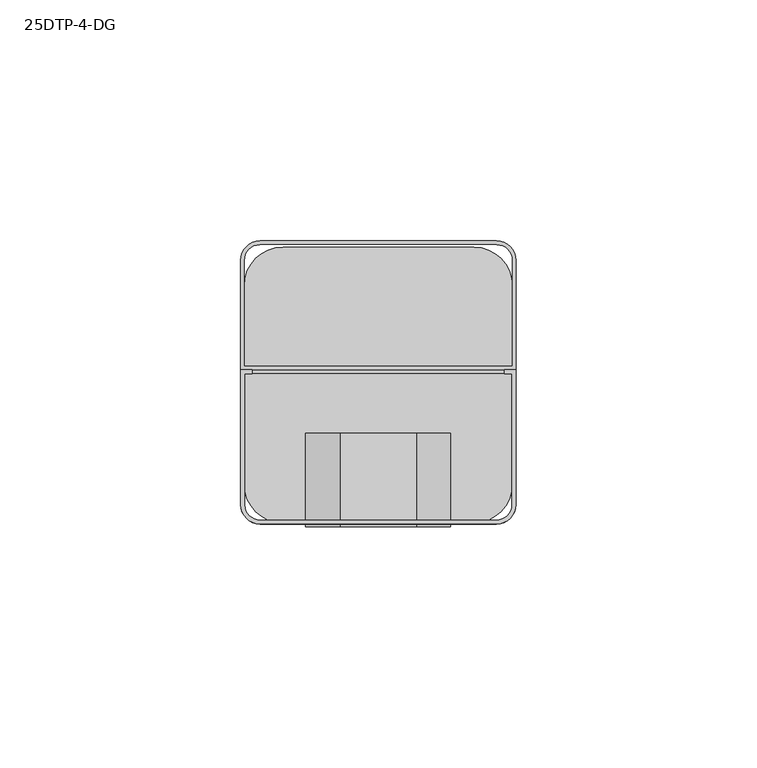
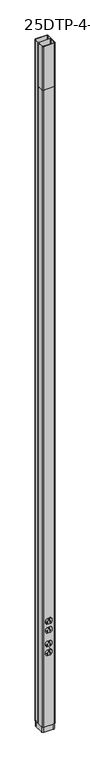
"""IFC4 building model written with IfcOpenShell, lengths in millimetres: proxy geometry, Vertical_Drop_Poles-Wiremold-Steel_Tele-Power_Pole : 25DTP-4-DG."""

from ifc_helpers import new_model, si_unit, point, frame, frame_2d, origin, origin_with_axes, place, context, project, spatial, polyline, circle_curve, trimmed, segment, composite_curve, outline, extrude, source, transform, mapped, element, save


def proxy_25dtp_4_dg_e121ea05(model_context):
    return source(origin(), model_context, "Body", "SweptSolid", [
        extrude(outline(composite_curve([segment(polyline([(28.575, 31.25), (28.575, 3.25)]), True, "CONTINUOUS"), segment(trimmed(circle_curve(frame_2d((24.575, 3.25)), 4.0), [point((28.575, 3.25))], [point((24.575, -0.75))], False, "CARTESIAN"), True, "CONTINUOUS"), segment(polyline([(24.575, -0.75), (-24.575, -0.75)]), True, "CONTINUOUS"), segment(trimmed(circle_curve(frame_2d((-24.575, 3.25)), 4.0), [point((-24.575, -0.75))], [point((-28.575, 3.25))], False, "CARTESIAN"), True, "CONTINUOUS"), segment(polyline([(-28.575, 3.25), (-28.575, 31.25), (-26.1875, 31.25), (-26.1875, 30.45), (-27.775, 30.45), (-27.775, 3.25)]), True, "CONTINUOUS"), segment(trimmed(circle_curve(frame_2d((-24.575, 3.25)), 3.2), [point((-27.775, 3.25))], [point((-24.575, 0.05))], True, "CARTESIAN"), True, "CONTINUOUS"), segment(polyline([(-24.575, 0.05), (24.575, 0.05)]), True, "CONTINUOUS"), segment(trimmed(circle_curve(frame_2d((24.575, 3.25)), 3.2), [point((24.575, 0.05))], [point((27.775, 3.25))], True, "CARTESIAN"), True, "CONTINUOUS"), segment(polyline([(27.775, 3.25), (27.775, 30.45), (26.1875, 30.45), (26.1875, 31.25), (28.575, 31.25)]), True, "CONTINUOUS")], self_intersect=False)), frame((0.0, 0.0, 2971.8), z_axis=(0.0, 0.0, 1.0), x_axis=(1.0, 0.0, 0.0)), (0.0, 0.0, 1.0), 203.2),
        extrude(outline(composite_curve([segment(trimmed(circle_curve(frame_2d((488.7029331, -1.1591271)), 13.933707), [point((500.85, -7.9853234))], [point((488.7029331, -15.092834))], False, "CARTESIAN"), True, "CONTINUOUS"), segment(polyline([(488.7029331, -15.092834), (486.7854081, -15.092834)]), True, "CONTINUOUS"), segment(trimmed(circle_curve(frame_2d((486.7854081, -0.9909304)), 14.1019036), [point((486.7854081, -15.092834))], [point((474.85, -8.5015708))], False, "CARTESIAN"), True, "CONTINUOUS"), segment(polyline([(474.85, -8.5015708), (474.85, 8.5041234)]), True, "CONTINUOUS"), segment(trimmed(circle_curve(frame_2d((486.6576313, 0.982166)), 14.0), [point((474.85, 8.5041234))], [point((486.6576313, 14.982166))], False, "CARTESIAN"), True, "CONTINUOUS"), segment(polyline([(486.6576313, 14.982166), (488.7451343, 14.982166)]), True, "CONTINUOUS"), segment(trimmed(circle_curve(frame_2d((488.7451343, 0.9958893)), 13.9862766), [point((488.7451343, 14.982166))], [point((500.85, 8.0021838))], False, "CARTESIAN"), True, "CONTINUOUS"), segment(polyline([(500.85, 8.0021838), (500.85, -7.9853234)]), True, "CONTINUOUS")], self_intersect=False), holes=[polyline([(486.9892021, -5.530934), (479.0517021, -5.530934), (479.0517021, -7.1202895), (486.9892021, -7.1202895), (486.9892021, -5.530934)]), polyline([(479.8454521, 5.29348), (486.1954521, 5.29348), (486.1954521, 6.8797105), (479.8454521, 6.8797105), (479.8454521, 5.29348)]), composite_curve([segment(polyline([(497.4329521, 2.240599), (494.2579521, 2.240599)]), True, "CONTINUOUS"), segment(trimmed(circle_curve(frame_2d((494.2579521, -0.140651)), 2.38125), [point((494.2579521, 2.240599))], [point((494.2579521, -2.521901))], True, "CARTESIAN"), True, "CONTINUOUS"), segment(polyline([(494.2579521, -2.521901), (497.4329521, -2.521901), (497.4329521, 2.240599)]), True, "CONTINUOUS")], self_intersect=False)]), frame((0.0, -0.8603814, 0.0), z_axis=(0.0, 1.0, 0.0), x_axis=(0.0, 0.0, 1.0)), (0.0, 0.0, 1.0), 19.3625),
        extrude(outline(composite_curve([segment(polyline([(459.05, 8.7098868), (459.05, -8.7111214)]), True, "CONTINUOUS"), segment(trimmed(circle_curve(frame_2d((447.3453879, -1.1683429)), 13.9244911), [point((459.05, -8.7111214))], [point((447.3453879, -15.092834))], False, "CARTESIAN"), True, "CONTINUOUS"), segment(polyline([(447.3453879, -15.092834), (445.4207127, -15.092834)]), True, "CONTINUOUS"), segment(trimmed(circle_curve(frame_2d((445.4207127, -0.9820385)), 14.1107955), [point((445.4207127, -15.092834))], [point((433.05, -7.7702649))], False, "CARTESIAN"), True, "CONTINUOUS"), segment(polyline([(433.05, -7.7702649), (433.05, 7.7817126)]), True, "CONTINUOUS"), segment(trimmed(circle_curve(frame_2d((445.293109, 0.9733088)), 14.0088572), [point((433.05, 7.7817126))], [point((445.293109, 14.982166))], False, "CARTESIAN"), True, "CONTINUOUS"), segment(polyline([(445.293109, 14.982166), (447.3875692, 14.982166)]), True, "CONTINUOUS"), segment(trimmed(circle_curve(frame_2d((447.3875692, 1.0036923)), 13.9784736), [point((447.3875692, 14.982166))], [point((459.05, 8.7098868))], False, "CARTESIAN"), True, "CONTINUOUS")], self_intersect=False), holes=[polyline([(445.5892021, -5.6947448), (437.6517021, -5.6947448), (437.6517021, -7.2841003), (445.5892021, -7.2841003), (445.5892021, -5.6947448)]), polyline([(438.4454521, 5.29348), (444.7954521, 5.29348), (444.7954521, 6.8797105), (438.4454521, 6.8797105), (438.4454521, 5.29348)]), composite_curve([segment(polyline([(456.0329521, 2.240599), (452.8579521, 2.240599)]), True, "CONTINUOUS"), segment(trimmed(circle_curve(frame_2d((452.8579521, -0.140651)), 2.38125), [point((452.8579521, 2.240599))], [point((452.8579521, -2.521901))], True, "CARTESIAN"), True, "CONTINUOUS"), segment(polyline([(452.8579521, -2.521901), (456.0329521, -2.521901), (456.0329521, 2.240599)]), True, "CONTINUOUS")], self_intersect=False)]), frame((0.0, -0.8603814, 0.0), z_axis=(0.0, 1.0, 0.0), x_axis=(0.0, 0.0, 1.0)), (0.0, 0.0, 1.0), 19.3625),
        extrude(outline(composite_curve([segment(trimmed(circle_curve(frame_2d((19.825, 49.2375)), 8.0), [point((19.825, 57.2375))], [point((27.825, 49.2375))], False, "CARTESIAN"), True, "CONTINUOUS"), segment(polyline([(27.825, 49.2375), (27.825, 8.0)]), True, "CONTINUOUS"), segment(trimmed(circle_curve(frame_2d((19.825, 8.0)), 8.0), [point((27.825, 8.0))], [point((19.825, 0.0))], False, "CARTESIAN"), True, "CONTINUOUS"), segment(polyline([(19.825, 0.0), (-19.825, 0.0)]), True, "CONTINUOUS"), segment(trimmed(circle_curve(frame_2d((-19.825, 8.0)), 8.0), [point((-19.825, 0.0))], [point((-27.825, 8.0))], False, "CARTESIAN"), True, "CONTINUOUS"), segment(polyline([(-27.825, 8.0), (-27.825, 49.2375)]), True, "CONTINUOUS"), segment(trimmed(circle_curve(frame_2d((-19.825, 49.2375)), 8.0), [point((-27.825, 49.2375))], [point((-19.825, 57.2375))], False, "CARTESIAN"), True, "CONTINUOUS"), segment(polyline([(-19.825, 57.2375), (19.825, 57.2375)]), True, "CONTINUOUS")], self_intersect=False)), frame((0.0, 0.0, -25.4), z_axis=(0.0, 0.0, 1.0), x_axis=(1.0, 0.0, 0.0)), (0.0, 0.0, 1.0), 25.4),
        extrude(outline(composite_curve([segment(trimmed(circle_curve(frame_2d((382.9267215, -1.3683703)), 13.514578), [point((394.7420503, -7.9289972))], [point((382.9267215, -14.8829484))], False, "CARTESIAN"), True, "CONTINUOUS"), segment(polyline([(382.9267215, -14.8829484), (381.1701673, -14.8829484)]), True, "CONTINUOUS"), segment(trimmed(circle_curve(frame_2d((381.1701673, -0.7955272)), 14.0874212), [point((381.1701673, -14.8829484))], [point((369.2960251, -8.3757767))], False, "CARTESIAN"), True, "CONTINUOUS"), segment(polyline([(369.2960251, -8.3757767), (369.2960251, 8.3803147)]), True, "CONTINUOUS"), segment(trimmed(circle_curve(frame_2d((380.7601645, 0.7899761)), 13.749172), [point((369.2960251, 8.3803147))], [point((380.7601645, 14.5391481))], False, "CARTESIAN"), True, "CONTINUOUS"), segment(polyline([(380.7601645, 14.5391481), (382.9712291, 14.5391481)]), True, "CONTINUOUS"), segment(trimmed(circle_curve(frame_2d((382.9712291, 0.7346672)), 13.8044809), [point((382.9712291, 14.5391481))], [point((394.7420503, 7.9465645))], False, "CARTESIAN"), True, "CONTINUOUS"), segment(polyline([(394.7420503, 7.9465645), (394.7420503, -7.9289972)]), True, "CONTINUOUS")], self_intersect=False), holes=[polyline([(381.1730138, -5.530934), (373.5125012, -5.530934), (373.5125012, -7.1202895), (381.1730138, -7.1202895), (381.1730138, -5.530934)]), polyline([(374.3062512, 5.29348), (380.3792638, 5.29348), (380.3792638, 6.8797105), (374.3062512, 6.8797105), (374.3062512, 5.29348)]), composite_curve([segment(polyline([(391.6167638, 2.240599), (388.4417638, 2.240599)]), True, "CONTINUOUS"), segment(trimmed(circle_curve(frame_2d((388.4417638, -0.140651)), 2.38125), [point((388.4417638, 2.240599))], [point((388.4417638, -2.521901))], True, "CARTESIAN"), True, "CONTINUOUS"), segment(polyline([(388.4417638, -2.521901), (391.6167638, -2.521901), (391.6167638, 2.240599)]), True, "CONTINUOUS")], self_intersect=False)]), frame((0.0, -0.8603814, 0.0), z_axis=(0.0, 1.0, 0.0), x_axis=(0.0, 0.0, 1.0)), (0.0, 0.0, 1.0), 19.3625),
        extrude(outline(composite_curve([segment(polyline([(353.4960251, 8.732199), (353.4960251, -8.7339979)]), True, "CONTINUOUS"), segment(trimmed(circle_curve(frame_2d((341.9368061, -1.0863882)), 13.8600678), [point((353.4960251, -8.7339979))], [point((341.9368061, -14.946456))], False, "CARTESIAN"), True, "CONTINUOUS"), segment(polyline([(341.9368061, -14.946456), (340.151998, -14.946456)]), True, "CONTINUOUS"), segment(trimmed(circle_curve(frame_2d((340.151998, -1.1565771)), 13.7898789), [point((340.151998, -14.946456))], [point((328.05, -7.7673565))], False, "CARTESIAN"), True, "CONTINUOUS"), segment(polyline([(328.05, -7.7673565), (328.05, 7.7787932)]), True, "CONTINUOUS"), segment(trimmed(circle_curve(frame_2d((340.0358326, 0.6795122)), 13.930541), [point((328.05, 7.7787932))], [point((340.0358326, 14.6100532))], False, "CARTESIAN"), True, "CONTINUOUS"), segment(polyline([(340.0358326, 14.6100532), (342.2553533, 14.6100532)]), True, "CONTINUOUS"), segment(trimmed(circle_curve(frame_2d((342.2553533, 0.9229263)), 13.6871269), [point((342.2553533, 14.6100532))], [point((353.4960251, 8.732199))], False, "CARTESIAN"), True, "CONTINUOUS")], self_intersect=False), holes=[polyline([(340.3269886, -5.6947448), (332.6664761, -5.6947448), (332.6664761, -7.2841003), (340.3269886, -7.2841003), (340.3269886, -5.6947448)]), polyline([(333.4602261, 5.29348), (339.5332386, 5.29348), (339.5332386, 6.8797105), (333.4602261, 6.8797105), (333.4602261, 5.29348)]), composite_curve([segment(polyline([(350.4937512, 2.240599), (347.5957386, 2.240599)]), True, "CONTINUOUS"), segment(trimmed(circle_curve(frame_2d((347.5957386, -0.140651)), 2.38125), [point((347.5957386, 2.240599))], [point((347.5957386, -2.521901))], True, "CARTESIAN"), True, "CONTINUOUS"), segment(polyline([(347.5957386, -2.521901), (350.4937512, -2.521901), (350.4937512, 2.240599)]), True, "CONTINUOUS")], self_intersect=False)]), frame((0.0, -0.8603814, 0.0), z_axis=(0.0, 1.0, 0.0), x_axis=(0.0, 0.0, 1.0)), (0.0, 0.0, 1.0), 19.3625),
        extrude(outline(composite_curve([segment(trimmed(circle_curve(frame_2d((24.575, 53.9875)), 4.0), [point((24.575, 57.9875))], [point((28.575, 53.9875))], False, "CARTESIAN"), True, "CONTINUOUS"), segment(polyline([(28.575, 53.9875), (28.575, 31.25), (-28.575, 31.25), (-28.575, 53.9875)]), True, "CONTINUOUS"), segment(trimmed(circle_curve(frame_2d((-24.575, 53.9875)), 4.0), [point((-28.575, 53.9875))], [point((-24.575, 57.9875))], False, "CARTESIAN"), True, "CONTINUOUS"), segment(polyline([(-24.575, 57.9875), (24.575, 57.9875)]), True, "CONTINUOUS")], self_intersect=False), holes=[composite_curve([segment(polyline([(27.775, 32.05), (27.775, 53.9875)]), True, "CONTINUOUS"), segment(trimmed(circle_curve(frame_2d((24.575, 53.9875)), 3.2), [point((27.775, 53.9875))], [point((24.575, 57.1875))], True, "CARTESIAN"), True, "CONTINUOUS"), segment(polyline([(24.575, 57.1875), (-24.575, 57.1875)]), True, "CONTINUOUS"), segment(trimmed(circle_curve(frame_2d((-24.575, 53.9875)), 3.2), [point((-24.575, 57.1875))], [point((-27.775, 53.9875))], True, "CARTESIAN"), True, "CONTINUOUS"), segment(polyline([(-27.775, 53.9875), (-27.775, 32.05), (27.775, 32.05)]), True, "CONTINUOUS")], self_intersect=False)]), origin_with_axes(), (0.0, 0.0, 1.0), 3175.0),
        extrude(outline(composite_curve([segment(polyline([(28.575, 31.25), (28.575, 3.25)]), True, "CONTINUOUS"), segment(trimmed(circle_curve(frame_2d((24.575, 3.25)), 4.0), [point((28.575, 3.25))], [point((24.575, -0.75))], False, "CARTESIAN"), True, "CONTINUOUS"), segment(polyline([(24.575, -0.75), (-24.575, -0.75)]), True, "CONTINUOUS"), segment(trimmed(circle_curve(frame_2d((-24.575, 3.25)), 4.0), [point((-24.575, -0.75))], [point((-28.575, 3.25))], False, "CARTESIAN"), True, "CONTINUOUS"), segment(polyline([(-28.575, 3.25), (-28.575, 31.25), (28.575, 31.25)]), True, "CONTINUOUS")], self_intersect=False), holes=[composite_curve([segment(polyline([(-27.775, 30.45), (-27.775, 3.25)]), True, "CONTINUOUS"), segment(trimmed(circle_curve(frame_2d((-24.575, 3.25)), 3.2), [point((-27.775, 3.25))], [point((-24.575, 0.05))], True, "CARTESIAN"), True, "CONTINUOUS"), segment(polyline([(-24.575, 0.05), (24.575, 0.05)]), True, "CONTINUOUS"), segment(trimmed(circle_curve(frame_2d((24.575, 3.25)), 3.2), [point((24.575, 0.05))], [point((27.775, 3.25))], True, "CARTESIAN"), True, "CONTINUOUS"), segment(polyline([(27.775, 3.25), (27.775, 30.45), (-27.775, 30.45)]), True, "CONTINUOUS")], self_intersect=False)]), origin_with_axes(), (0.0, 0.0, 1.0), 2971.8),
    ])


if __name__ == "__main__":
    model = new_model("IFC4")
    model_context = context("Model", 3, world=origin())
    ifc_project = project(units=[si_unit("LENGTHUNIT", "METRE", prefix="MILLI")], contexts=[model_context])
    site = spatial("IfcSite", under=ifc_project)
    building = spatial("IfcBuilding", under=site)
    placement = place(None, origin())
    proxy_25dtp_4_dg_shape = proxy_25dtp_4_dg_e121ea05(model_context)
    element("IfcBuildingElementProxy", 1, Name="Vertical_Drop_Poles-Wiremold-Steel_Tele-Power_Pole : 25DTP-4-DG", ObjectType="Vertical_Drop_Poles-Wiremold-Steel_Tele-Power_Pole : 25DTP-4-DG", at=placement, inside=building, context=model_context, shape_type="MappedRepresentation", body=[
        mapped(proxy_25dtp_4_dg_shape, transform((0.0, 0.0, 0.0), x_axis=(1.0, 0.0, 0.0), y_axis=(0.0, 1.0, 0.0), z_axis=(0.0, 0.0, 1.0))),
    ])
    save(model, "model.ifc")
